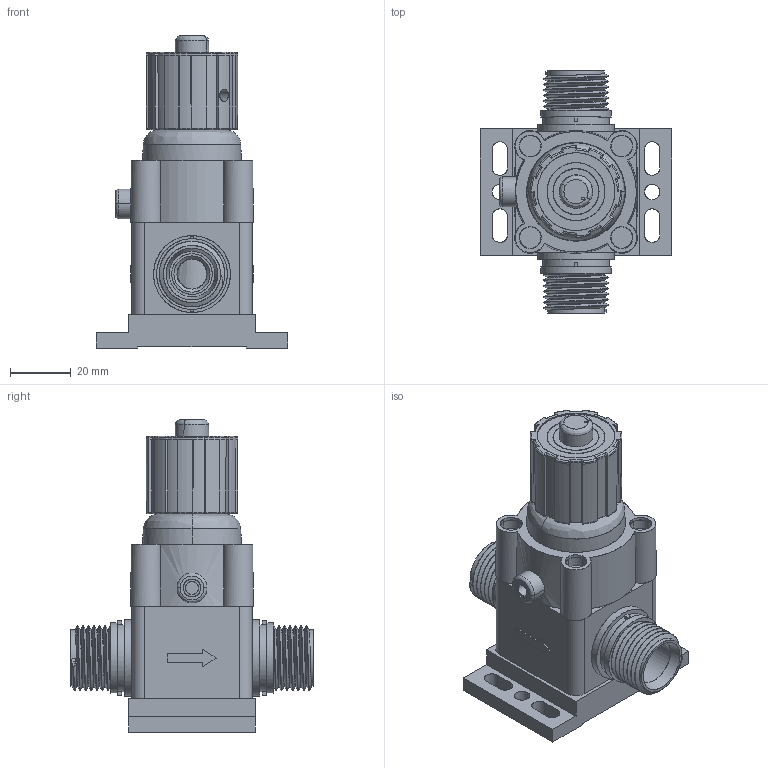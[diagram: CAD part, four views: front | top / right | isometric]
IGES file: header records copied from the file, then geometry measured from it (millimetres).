
Bounding box: 63 x 79.6 x 102.45 mm (x, y, z)
Surface area: 67863.6 mm2 (no closed solid volume)
Topology: 0 solids, 0 shells, 1268 faces, 8042 edges, 7990 vertices
Faces by surface type: bspline 1268
